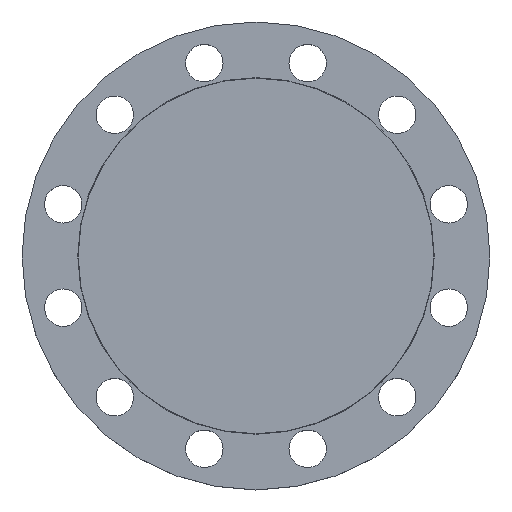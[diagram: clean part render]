
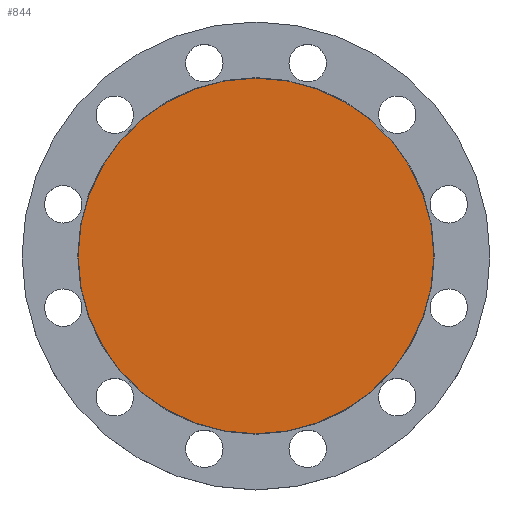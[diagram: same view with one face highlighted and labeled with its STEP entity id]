
A CAD part, top view. The second image highlights one B-rep face of the part: STEP entity #844.
In plain terms, the highlighted planar face has unit normal (0, 0, 1).
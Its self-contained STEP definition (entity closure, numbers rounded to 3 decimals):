
#274 = DIRECTION ( 'NONE',  ( -1., 0., 0. ) ) ;
#275 = DIRECTION ( 'NONE',  ( 0., 0., -1. ) ) ;
#276 = CARTESIAN_POINT ( 'NONE',  ( 0., 0., 0. ) ) ;
#283 = CARTESIAN_POINT ( 'NONE',  ( 142.5, 0., 0. ) ) ;
#284 = DIRECTION ( 'NONE',  ( -1., 0., 0. ) ) ;
#285 = DIRECTION ( 'NONE',  ( 0., 0., -1. ) ) ;
#286 = CARTESIAN_POINT ( 'NONE',  ( 0., 0., 0. ) ) ;
#330 = CARTESIAN_POINT ( 'NONE',  ( -142.5, 0., 0. ) ) ;
#554 = DIRECTION ( 'NONE',  ( 1., 0., 0. ) ) ;
#555 = DIRECTION ( 'NONE',  ( 0., 0., 1. ) ) ;
#557 = CARTESIAN_POINT ( 'NONE',  ( 0., 0., 0. ) ) ;
#558 = PLANE ( 'NONE',  #658 ) ;
#559 = FACE_OUTER_BOUND ( 'NONE', #1161, .T. ) ;
#658 = AXIS2_PLACEMENT_3D ( 'NONE', #557, #555, #554 ) ;
#844 = ADVANCED_FACE ( 'NONE', ( #559 ), #558, .T. ) ;
#845 = CIRCLE ( 'NONE', #846, 142.5 ) ;
#846 = AXIS2_PLACEMENT_3D ( 'NONE', #286, #285, #284 ) ;
#849 = CIRCLE ( 'NONE', #854, 142.5 ) ;
#854 = AXIS2_PLACEMENT_3D ( 'NONE', #276, #275, #274 ) ;
#1034 = ORIENTED_EDGE ( 'NONE', *, *, #1187, .F. ) ;
#1035 = ORIENTED_EDGE ( 'NONE', *, *, #1183, .F. ) ;
#1155 = VERTEX_POINT ( 'NONE', #330 ) ;
#1161 = EDGE_LOOP ( 'NONE', ( #1034, #1035 ) ) ;
#1183 = EDGE_CURVE ( 'NONE', #1184, #1155, #845, .T. ) ;
#1184 = VERTEX_POINT ( 'NONE', #283 ) ;
#1187 = EDGE_CURVE ( 'NONE', #1155, #1184, #849, .T. ) ;
